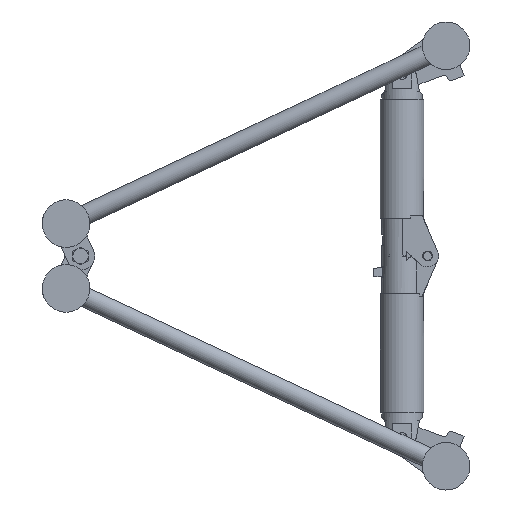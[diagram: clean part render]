
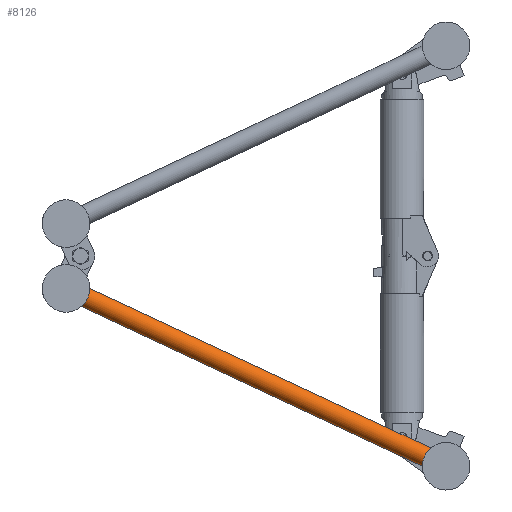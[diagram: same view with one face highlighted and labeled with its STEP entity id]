
A CAD part, left-side view. The second image highlights one B-rep face of the part: STEP entity #8126.
In plain terms, the highlighted cylindrical face has radius 12.5 mm (diameter 25 mm), a full revolution.
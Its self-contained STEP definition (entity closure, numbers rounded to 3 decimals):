
#182=B_SPLINE_CURVE_WITH_KNOTS('',3,(#13283,#13284,#13285,#13286,#13287,
#13288),.UNSPECIFIED.,.F.,.F.,(4,2,4),(1.801,1.922,
2.043),.UNSPECIFIED.);
#183=B_SPLINE_CURVE_WITH_KNOTS('',3,(#13292,#13293,#13294,#13295,#13296,
#13297),.UNSPECIFIED.,.F.,.F.,(4,2,4),(5.645,5.766,
5.887),.UNSPECIFIED.);
#186=B_SPLINE_CURVE_WITH_KNOTS('',3,(#13332,#13333,#13334,#13335,#13336,
#13337),.UNSPECIFIED.,.F.,.F.,(4,2,4),(5.645,5.766,
5.887),.UNSPECIFIED.);
#187=B_SPLINE_CURVE_WITH_KNOTS('',3,(#13341,#13342,#13343,#13344,#13345,
#13346),.UNSPECIFIED.,.F.,.F.,(4,2,4),(1.801,1.922,
2.043),.UNSPECIFIED.);
#429=FACE_BOUND('',#1856,.T.);
#733=CIRCLE('',#8853,12.5);
#734=CIRCLE('',#8855,12.5);
#735=CIRCLE('',#8856,12.5);
#736=CIRCLE('',#8857,12.5);
#921=CYLINDRICAL_SURFACE('',#8854,12.5);
#1272=FACE_OUTER_BOUND('',#1855,.T.);
#1855=EDGE_LOOP('',(#6314,#6315,#6316,#6317));
#1856=EDGE_LOOP('',(#6318,#6319,#6320,#6321));
#3626=VERTEX_POINT('',#13281);
#3627=VERTEX_POINT('',#13282);
#3628=VERTEX_POINT('',#13289);
#3629=VERTEX_POINT('',#13291);
#3637=VERTEX_POINT('',#13330);
#3638=VERTEX_POINT('',#13331);
#3639=VERTEX_POINT('',#13338);
#3640=VERTEX_POINT('',#13340);
#4586=EDGE_CURVE('',#3626,#3627,#182,.T.);
#4588=EDGE_CURVE('',#3629,#3628,#183,.T.);
#4598=EDGE_CURVE('',#3628,#3626,#733,.T.);
#4599=EDGE_CURVE('',#3637,#3638,#186,.T.);
#4600=EDGE_CURVE('',#3638,#3639,#734,.T.);
#4601=EDGE_CURVE('',#3639,#3640,#187,.T.);
#4602=EDGE_CURVE('',#3640,#3637,#735,.T.);
#4603=EDGE_CURVE('',#3627,#3629,#736,.T.);
#6314=ORIENTED_EDGE('',*,*,#4599,.T.);
#6315=ORIENTED_EDGE('',*,*,#4600,.T.);
#6316=ORIENTED_EDGE('',*,*,#4601,.T.);
#6317=ORIENTED_EDGE('',*,*,#4602,.T.);
#6318=ORIENTED_EDGE('',*,*,#4588,.T.);
#6319=ORIENTED_EDGE('',*,*,#4598,.T.);
#6320=ORIENTED_EDGE('',*,*,#4586,.T.);
#6321=ORIENTED_EDGE('',*,*,#4603,.T.);
#8126=ADVANCED_FACE('',(#1272,#429),#921,.T.);
#8853=AXIS2_PLACEMENT_3D('',#13328,#10612,#10613);
#8854=AXIS2_PLACEMENT_3D('',#13329,#10614,#10615);
#8855=AXIS2_PLACEMENT_3D('',#13339,#10616,#10617);
#8856=AXIS2_PLACEMENT_3D('',#13347,#10618,#10619);
#8857=AXIS2_PLACEMENT_3D('',#13348,#10620,#10621);
#10612=DIRECTION('center_axis',(0.,0.906,
0.424));
#10613=DIRECTION('ref_axis',(-1.,0.,0.));
#10614=DIRECTION('center_axis',(0.,0.906,
0.424));
#10615=DIRECTION('ref_axis',(-1.,0.,0.));
#10616=DIRECTION('center_axis',(0.,-0.906,
-0.424));
#10617=DIRECTION('ref_axis',(-1.,0.,0.));
#10618=DIRECTION('center_axis',(0.,-0.906,
-0.424));
#10619=DIRECTION('ref_axis',(-1.,0.,0.));
#10620=DIRECTION('center_axis',(0.,0.906,
0.424));
#10621=DIRECTION('ref_axis',(-1.,0.,0.));
#13281=CARTESIAN_POINT('',(80.06,23.134,-250.523));
#13282=CARTESIAN_POINT('',(80.06,22.096,-248.305));
#13283=CARTESIAN_POINT('Ctrl Pts',(80.06,23.134,-250.523));
#13284=CARTESIAN_POINT('Ctrl Pts',(80.02,22.978,-250.142));
#13285=CARTESIAN_POINT('Ctrl Pts',(80.,22.813,-249.767));
#13286=CARTESIAN_POINT('Ctrl Pts',(80.,22.471,-249.036));
#13287=CARTESIAN_POINT('Ctrl Pts',(80.02,22.289,-248.669));
#13288=CARTESIAN_POINT('Ctrl Pts',(80.06,22.096,-248.305));
#13289=CARTESIAN_POINT('',(104.94,23.134,-250.523));
#13291=CARTESIAN_POINT('',(104.94,22.096,-248.305));
#13292=CARTESIAN_POINT('Ctrl Pts',(104.94,22.096,-248.305));
#13293=CARTESIAN_POINT('Ctrl Pts',(104.98,22.289,-248.669));
#13294=CARTESIAN_POINT('Ctrl Pts',(105.,22.471,-249.036));
#13295=CARTESIAN_POINT('Ctrl Pts',(105.,22.813,-249.767));
#13296=CARTESIAN_POINT('Ctrl Pts',(104.98,22.978,-250.142));
#13297=CARTESIAN_POINT('Ctrl Pts',(104.94,23.134,-250.523));
#13328=CARTESIAN_POINT('Origin',(92.5,22.615,-249.414));
#13329=CARTESIAN_POINT('Origin',(92.5,234.999,-150.));
#13330=CARTESIAN_POINT('',(104.94,447.903,-51.695));
#13331=CARTESIAN_POINT('',(104.94,446.865,-49.477));
#13332=CARTESIAN_POINT('Ctrl Pts',(104.94,447.903,-51.695));
#13333=CARTESIAN_POINT('Ctrl Pts',(104.98,447.71,-51.331));
#13334=CARTESIAN_POINT('Ctrl Pts',(105.,447.528,-50.964));
#13335=CARTESIAN_POINT('Ctrl Pts',(105.,447.185,-50.233));
#13336=CARTESIAN_POINT('Ctrl Pts',(104.98,447.021,-49.858));
#13337=CARTESIAN_POINT('Ctrl Pts',(104.94,446.865,-49.477));
#13338=CARTESIAN_POINT('',(80.06,446.865,-49.477));
#13339=CARTESIAN_POINT('Origin',(92.5,447.384,-50.586));
#13340=CARTESIAN_POINT('',(80.06,447.903,-51.695));
#13341=CARTESIAN_POINT('Ctrl Pts',(80.06,446.865,-49.477));
#13342=CARTESIAN_POINT('Ctrl Pts',(80.02,447.021,-49.858));
#13343=CARTESIAN_POINT('Ctrl Pts',(80.,447.185,-50.233));
#13344=CARTESIAN_POINT('Ctrl Pts',(80.,447.528,-50.964));
#13345=CARTESIAN_POINT('Ctrl Pts',(80.02,447.71,-51.331));
#13346=CARTESIAN_POINT('Ctrl Pts',(80.06,447.903,-51.695));
#13347=CARTESIAN_POINT('Origin',(92.5,447.384,-50.586));
#13348=CARTESIAN_POINT('Origin',(92.5,22.615,-249.414));
